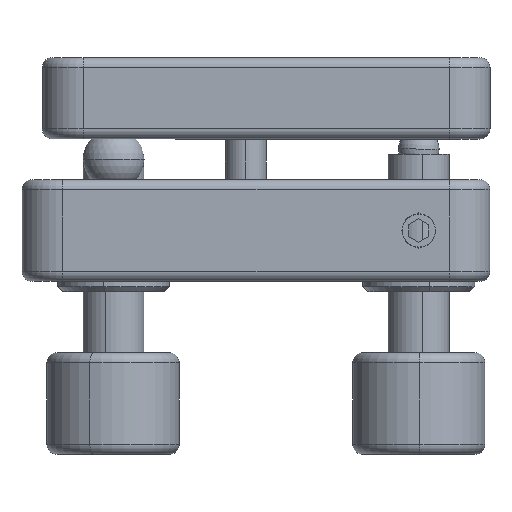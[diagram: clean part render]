
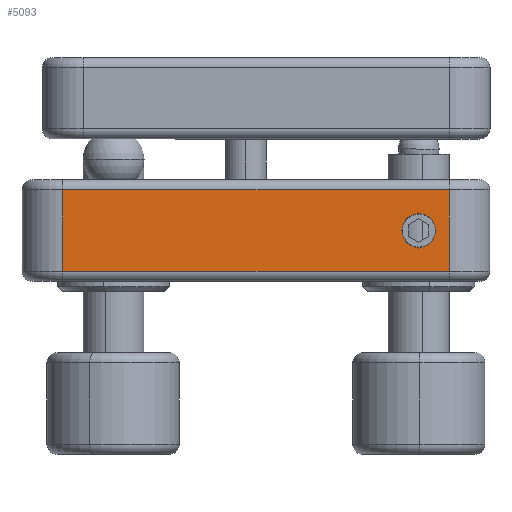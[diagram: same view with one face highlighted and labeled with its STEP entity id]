
A CAD part, left-side view. The second image highlights one B-rep face of the part: STEP entity #5093.
In plain terms, the highlighted planar face has unit normal (-1, 0, 0).
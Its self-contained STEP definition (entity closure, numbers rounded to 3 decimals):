
#196 = ORIENTED_EDGE ( 'NONE', *, *, #8125, .F. ) ;
#281 = PLANE ( 'NONE',  #2662 ) ;
#353 = CARTESIAN_POINT ( 'NONE',  ( -23., -16., 0. ) ) ;
#682 = VERTEX_POINT ( 'NONE', #2497 ) ;
#910 = LINE ( 'NONE', #1469, #5506 ) ;
#929 = DIRECTION ( 'NONE',  ( 0., 0., 1. ) ) ;
#967 = ORIENTED_EDGE ( 'NONE', *, *, #7597, .F. ) ;
#1201 = CARTESIAN_POINT ( 'NONE',  ( -23., -19., 4. ) ) ;
#1269 = EDGE_LOOP ( 'NONE', ( #2370, #5308, #2363, #4998 ) ) ;
#1469 = CARTESIAN_POINT ( 'NONE',  ( -23., 19., 4. ) ) ;
#1577 = EDGE_LOOP ( 'NONE', ( #196, #967 ) ) ;
#1950 = VERTEX_POINT ( 'NONE', #7058 ) ;
#2044 = CIRCLE ( 'NONE', #8848, 1.65 ) ;
#2121 = DIRECTION ( 'NONE',  ( 1., 0., 0. ) ) ;
#2155 = DIRECTION ( 'NONE',  ( 0., 0., -1. ) ) ;
#2349 = CARTESIAN_POINT ( 'NONE',  ( -23., -23., 5. ) ) ;
#2363 = ORIENTED_EDGE ( 'NONE', *, *, #5976, .T. ) ;
#2370 = ORIENTED_EDGE ( 'NONE', *, *, #9179, .T. ) ;
#2375 = CARTESIAN_POINT ( 'NONE',  ( -23., -19., 5. ) ) ;
#2497 = CARTESIAN_POINT ( 'NONE',  ( -23., 19., -4. ) ) ;
#2570 = DIRECTION ( 'NONE',  ( 0., 1., 0. ) ) ;
#2662 = AXIS2_PLACEMENT_3D ( 'NONE', #2349, #2121, #2155 ) ;
#3099 = DIRECTION ( 'NONE',  ( 0., 0., 1. ) ) ;
#3487 = CARTESIAN_POINT ( 'NONE',  ( -23., 19., 5. ) ) ;
#3513 = CARTESIAN_POINT ( 'NONE',  ( -23., 19., 4. ) ) ;
#3519 = DIRECTION ( 'NONE',  ( 0., 0., -1. ) ) ;
#4290 = DIRECTION ( 'NONE',  ( -1., 0., 0. ) ) ;
#4442 = EDGE_CURVE ( 'NONE', #682, #8479, #5236, .T. ) ;
#4882 = EDGE_CURVE ( 'NONE', #6716, #6724, #910, .T. ) ;
#4944 = AXIS2_PLACEMENT_3D ( 'NONE', #353, #4290, #929 ) ;
#4998 = ORIENTED_EDGE ( 'NONE', *, *, #4442, .T. ) ;
#5070 = DIRECTION ( 'NONE',  ( -1., 0., 0. ) ) ;
#5093 = ADVANCED_FACE ( 'NONE', ( #6725, #6063 ), #281, .F. ) ;
#5236 = LINE ( 'NONE', #7190, #8736 ) ;
#5308 = ORIENTED_EDGE ( 'NONE', *, *, #4882, .T. ) ;
#5506 = VECTOR ( 'NONE', #2570, 1000. ) ;
#5527 = CIRCLE ( 'NONE', #4944, 1.65 ) ;
#5976 = EDGE_CURVE ( 'NONE', #6724, #682, #8116, .T. ) ;
#6063 = FACE_OUTER_BOUND ( 'NONE', #1269, .T. ) ;
#6716 = VERTEX_POINT ( 'NONE', #1201 ) ;
#6722 = CARTESIAN_POINT ( 'NONE',  ( -23., -16., 1.65 ) ) ;
#6724 = VERTEX_POINT ( 'NONE', #3513 ) ;
#6725 = FACE_BOUND ( 'NONE', #1577, .T. ) ;
#7058 = CARTESIAN_POINT ( 'NONE',  ( -23., -16., -1.65 ) ) ;
#7190 = CARTESIAN_POINT ( 'NONE',  ( -23., -23., -4. ) ) ;
#7216 = CARTESIAN_POINT ( 'NONE',  ( -23., -19., -4. ) ) ;
#7304 = DIRECTION ( 'NONE',  ( 0., -1., 0. ) ) ;
#7597 = EDGE_CURVE ( 'NONE', #1950, #9343, #2044, .T. ) ;
#8116 = LINE ( 'NONE', #3487, #8903 ) ;
#8125 = EDGE_CURVE ( 'NONE', #9343, #1950, #5527, .T. ) ;
#8299 = CARTESIAN_POINT ( 'NONE',  ( -23., -16., 0. ) ) ;
#8479 = VERTEX_POINT ( 'NONE', #7216 ) ;
#8585 = VECTOR ( 'NONE', #3099, 1000. ) ;
#8736 = VECTOR ( 'NONE', #7304, 1000. ) ;
#8814 = LINE ( 'NONE', #2375, #8585 ) ;
#8848 = AXIS2_PLACEMENT_3D ( 'NONE', #8299, #5070, #9203 ) ;
#8903 = VECTOR ( 'NONE', #3519, 1000. ) ;
#9179 = EDGE_CURVE ( 'NONE', #8479, #6716, #8814, .T. ) ;
#9203 = DIRECTION ( 'NONE',  ( 0., 0., 1. ) ) ;
#9343 = VERTEX_POINT ( 'NONE', #6722 ) ;
